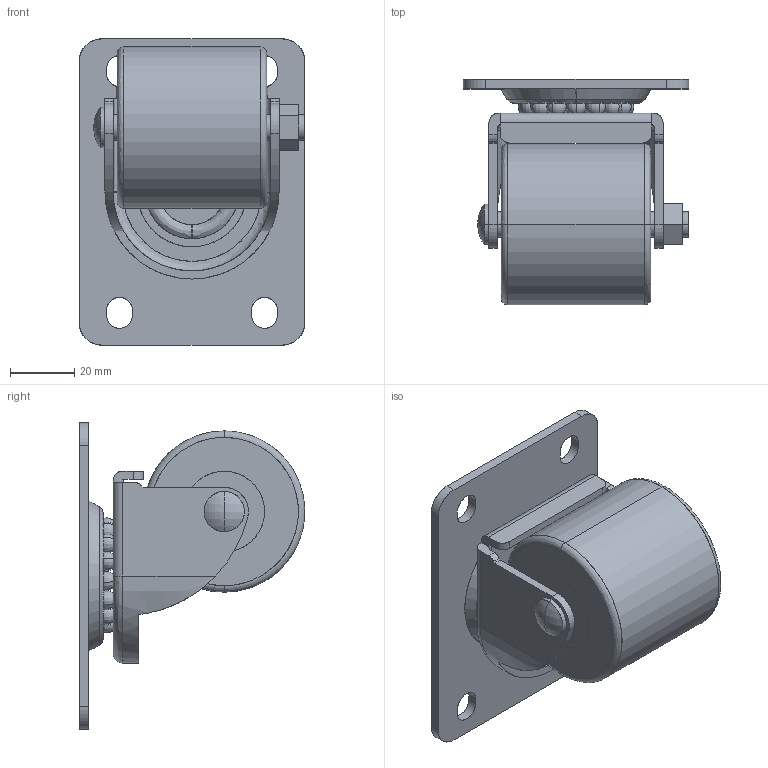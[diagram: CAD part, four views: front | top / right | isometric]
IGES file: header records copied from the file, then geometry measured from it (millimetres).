
Start section: SolidWorks IGES file using analytic representation for surfaces
Global section: file name: C:\Users\KHJ\Desktop\SH8000\SH-8020B.IGS; native system: SolidWorks 2011; preprocessor: SolidWorks 2011; author: KHJ; date: 121212.002127; units: millimetre
Bounding box: 70 x 70 x 95 mm (x, y, z)
Surface area: 50391.9 mm2 (no closed solid volume)
Topology: 0 solids, 0 shells, 225 faces, 3084 edges, 2944 vertices
Faces by surface type: revolution 134, bspline 91
